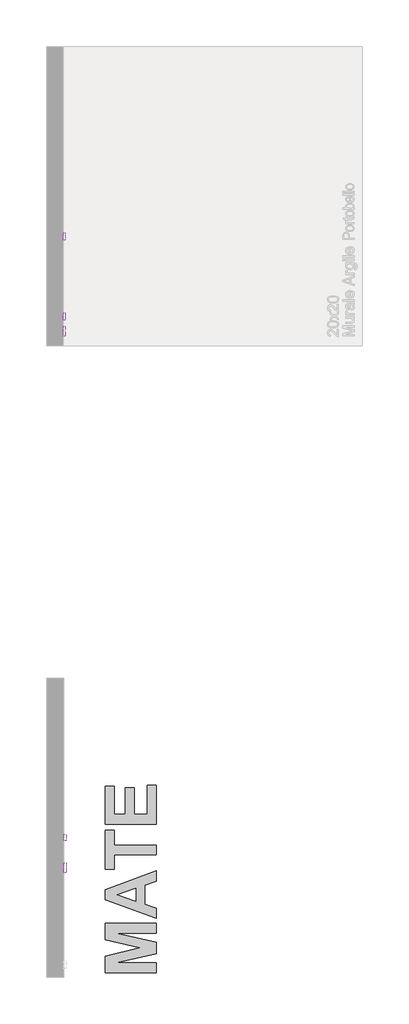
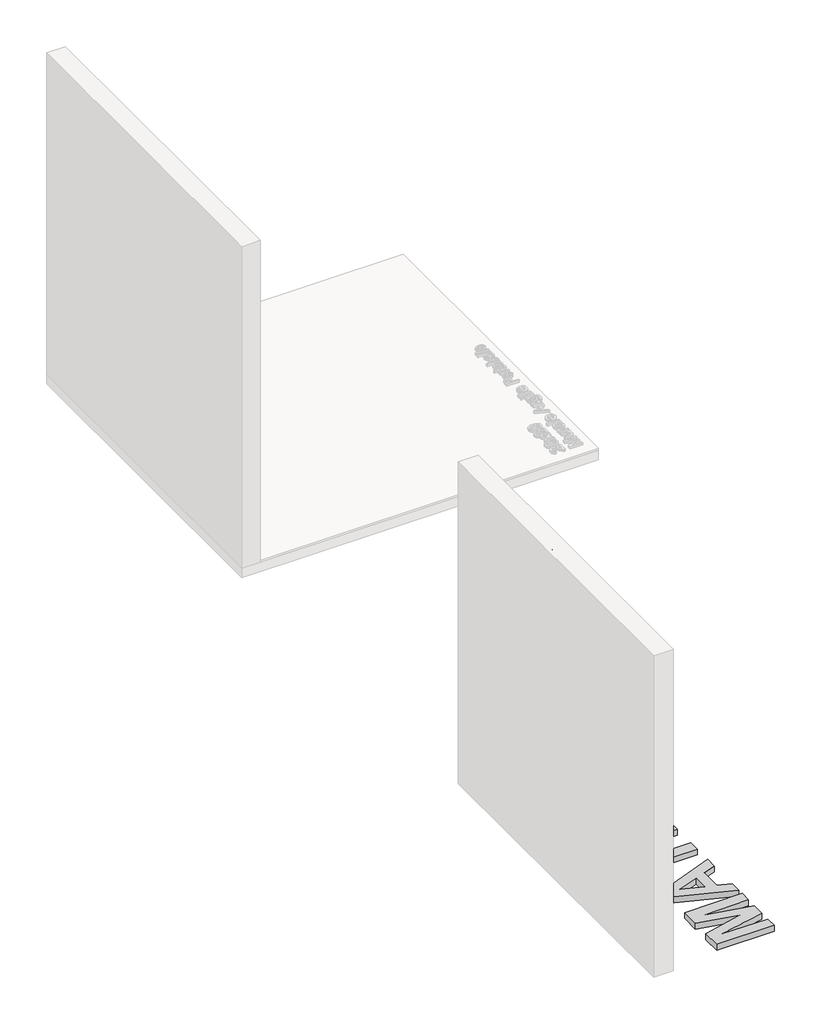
# One storey, part 6 of 21: 6 proxies.
"""IFC4 building model written with IfcOpenShell, lengths in millimetres."""

from ifc_helpers import new_model, si_unit, frame, origin, origin_with_axes, place, context, project, spatial, polyline, outline, extrude, element, save

model = new_model("IFC4")

# Units and contexts
model_context = context("Model", 3, world=origin())
ifc_project = project(units=[si_unit("LENGTHUNIT", "METRE", prefix="MILLI")], contexts=[model_context])

# Site, building, storey
site = spatial("IfcSite", under=ifc_project)
building = spatial("IfcBuilding", under=site)
storey = spatial("IfcBuildingStorey", under=building, Name="PORTOBELLO - SHOWROOM", Elevation=0.0)

# Proxies
placement = place(None, origin())
element("IfcBuildingElementProxy", 1, Name="10mm Arial", ObjectType="10mm Arial", at=placement, inside=storey, context=model_context, shape_type="SweptSolid", body=[
    extrude(outline(polyline([(4665.0222015, 2518.4745677), (4665.0222015, 2618.9308778), (4686.555561, 2618.9308778), (4707.1569527, 2548.1258565), (4711.326282, 2533.3370003), (4715.8144423, 2549.3521298), (4736.0234266, 2618.9308778), (4757.6303624, 2618.9308778), (4757.6303624, 2518.4745677), (4745.0733237, 2518.4745677), (4745.0733237, 2606.373839), (4719.8366188, 2518.4745677), (4702.8404706, 2518.4745677), (4677.5792403, 2606.373839), (4677.5792403, 2518.4745677), (4665.0222015, 2518.4745677)])), frame((15340.268651, 0.0, 0.0), z_axis=(1.0, 0.0, 0.0), x_axis=(0.0, 1.0, 0.0)), (0.0, 0.0, 1.0), 20.0),
    extrude(outline(polyline([(4825.1244458, 2518.4745677), (4825.1244458, 2531.1542338), (4815.2897338, 2520.4672618), (4802.4629149, 2516.9049378), (4790.6539029, 2519.4065354), (4782.511448, 2525.6850548), (4778.7713144, 2534.9311556), (4778.0355504, 2546.6052776), (4778.0355504, 2592.2471704), (4790.5925892, 2592.2471704), (4790.5925892, 2552.515915), (4791.3528787, 2539.7136215), (4796.3192856, 2532.1965661), (4805.675751, 2529.4619766), (4816.1603879, 2532.2578797), (4823.0888321, 2539.873037), (4825.1244458, 2553.8648156), (4825.1244458, 2592.2471704), (4837.6814846, 2592.2471704), (4837.6814846, 2518.4745677), (4825.1244458, 2518.4745677)])), frame((15340.268651, 0.0, 0.0), z_axis=(1.0, 0.0, 0.0), x_axis=(0.0, 1.0, 0.0)), (0.0, 0.0, 1.0), 20.0),
    extrude(outline(polyline([(4854.9474129, 2518.4745677), (4854.9474129, 2592.2471704), (4865.9348218, 2592.2471704), (4865.9348218, 2581.3333379), (4873.7339201, 2591.3887791), (4881.5820693, 2593.8168003), (4894.188159, 2589.9417766), (4889.9943043, 2578.6845875), (4881.1651364, 2581.2597615), (4874.0650139, 2578.7826894), (4869.5400654, 2571.9155588), (4867.5044517, 2557.24933), (4867.5044517, 2518.4745677), (4854.9474129, 2518.4745677)])), frame((15340.268651, 0.0, 0.0), z_axis=(1.0, 0.0, 0.0), x_axis=(0.0, 1.0, 0.0)), (0.0, 0.0, 1.0), 20.0),
    extrude(outline(polyline([(4949.1252037, 2527.8923467), (4936.9483096, 2519.3820099), (4923.4960913, 2516.9049378), (4913.0022574, 2518.3948599), (4905.2614071, 2522.8646261), (4900.4881382, 2529.6520489), (4898.8970486, 2538.0949407), (4901.3005443, 2548.0277546), (4907.6158519, 2555.2382417), (4916.4082316, 2559.3585201), (4927.2730131, 2561.246981), (4949.0516273, 2565.563463), (4949.1252037, 2568.3593662), (4945.6671129, 2577.6299925), (4931.785699, 2581.2597615), (4919.0815074, 2578.8440031), (4913.0237172, 2570.2723526), (4900.4666784, 2571.8419824), (4905.8990692, 2584.1047156), (4916.8374272, 2591.2906772), (4933.4043797, 2593.8168003), (4948.6224316, 2591.5849828), (4957.2186076, 2585.9809138), (4961.0691058, 2577.4583142), (4961.6822424, 2566.4709053), (4961.6822424, 2550.8481832), (4962.3199046, 2529.0327809), (4964.8215021, 2518.4745677), (4952.2644634, 2518.4745677), (4949.1252037, 2527.8923467)]), holes=[polyline([(4949.1252037, 2553.0064243), (4928.8671685, 2549.1559261), (4918.0637005, 2547.1203124), (4913.17087, 2543.8093744), (4911.4540874, 2538.9778575), (4915.194221, 2532.1843033), (4926.1693672, 2529.4619766), (4938.8735587, 2532.4663462), (4947.0650645, 2539.738147), (4949.0516273, 2549.4502317), (4949.1252037, 2553.0064243)])]), frame((15340.268651, 0.0, 0.0), z_axis=(1.0, 0.0, 0.0), x_axis=(0.0, 1.0, 0.0)), (0.0, 0.0, 1.0), 20.0),
    extrude(outline(polyline([(15360.268651, 4991.5052095), (15360.268651, 4978.9481707), (15340.268651, 4978.9481707), (15340.268651, 4991.5052095), (15360.268651, 4991.5052095)])), frame((0.0, 0.0, 2518.4745677), z_axis=(0.0, 0.0, 1.0), x_axis=(1.0, 0.0, 0.0)), (0.0, 0.0, 1.0), 100.4563101),
    extrude(outline(polyline([(5061.9913998, 2540.4493855), (5074.3031839, 2538.8797557), (5069.8671402, 2529.602998), (5062.7884774, 2522.6684224), (5053.2266112, 2518.345809), (5041.3409571, 2516.9049378), (5026.6072832, 2519.391207), (5015.2703864, 2526.8500144), (5008.0415052, 2538.7969822), (5005.6318781, 2554.7477324), (5008.0660307, 2571.2349771), (5015.3684883, 2583.5651553), (5026.5521009, 2591.253889), (5040.6297186, 2593.8168003), (5054.2689436, 2591.2600204), (5065.1674477, 2583.5896808), (5072.3135554, 2571.2840281), (5074.6955913, 2554.8213088), (5074.6220149, 2551.4367944), (5018.1889169, 2551.4367944), (5020.3624863, 2542.0374095), (5025.4116667, 2535.1273593), (5032.6987959, 2530.8783223), (5041.5862118, 2529.4619766), (5053.8979959, 2532.0862015), (5061.9913998, 2540.4493855)]), holes=[polyline([(5018.1889169, 2563.9938332), (5062.1385526, 2563.9938332), (5057.110832, 2575.3736496), (5049.7899803, 2579.7882335), (5040.5806677, 2581.2597615), (5025.1173611, 2576.5631347), (5020.2521217, 2571.0724959), (5018.1889169, 2563.9938332)])]), frame((15340.268651, 0.0, 0.0), z_axis=(1.0, 0.0, 0.0), x_axis=(0.0, 1.0, 0.0)), (0.0, 0.0, 1.0), 20.0),
    extrude(outline(polyline([(5116.3888841, 2518.4745677), (5156.4880216, 2618.9308778), (5167.1811249, 2618.9308778), (5207.2557369, 2518.4745677), (5193.9874596, 2518.4745677), (5182.5095414, 2549.8671646), (5141.1105542, 2549.8671646), (5129.632636, 2518.4745677), (5116.3888841, 2518.4745677)]), holes=[polyline([(5145.7213419, 2562.4242034), (5177.9232792, 2562.4242034), (5168.8488566, 2587.121348), (5161.8100478, 2606.373839), (5155.5560539, 2589.279589), (5145.7213419, 2562.4242034)])]), frame((15340.268651, 0.0, 0.0), z_axis=(1.0, 0.0, 0.0), x_axis=(0.0, 1.0, 0.0)), (0.0, 0.0, 1.0), 20.0),
    extrude(outline(polyline([(5219.1015372, 2518.4745677), (5219.1015372, 2592.2471704), (5230.0889461, 2592.2471704), (5230.0889461, 2581.3333379), (5237.8880444, 2591.3887791), (5245.7361936, 2593.8168003), (5258.3422833, 2589.9417766), (5254.1484286, 2578.6845875), (5245.3192607, 2581.2597615), (5238.2191382, 2578.7826894), (5233.6941897, 2571.9155588), (5231.658576, 2557.24933), (5231.658576, 2518.4745677), (5219.1015372, 2518.4745677)])), frame((15340.268651, 0.0, 0.0), z_axis=(1.0, 0.0, 0.0), x_axis=(0.0, 1.0, 0.0)), (0.0, 0.0, 1.0), 20.0),
    extrude(outline(polyline([(5263.0511729, 2512.1960483), (5275.6082116, 2510.6264184), (5279.6794391, 2504.0045425), (5291.8685958, 2501.2086394), (5304.7199402, 2504.3724245), (5310.8513068, 2513.2506433), (5311.7096981, 2527.8923467), (5302.8682675, 2520.8290124), (5292.089325, 2518.4745677), (5279.1429445, 2521.2152885), (5269.4891078, 2529.4374511), (5263.4834342, 2541.4917178), (5261.481543, 2555.728751), (5265.0745238, 2575.1897086), (5275.4733216, 2588.9607579), (5291.4761884, 2593.8168003), (5302.6781951, 2591.069948), (5311.7096981, 2582.8293914), (5311.7096981, 2592.2471704), (5324.2667369, 2592.2471704), (5324.2667369, 2528.5545343), (5320.8331716, 2504.1639581), (5309.9561273, 2492.8209299), (5291.6233412, 2488.6516006), (5279.9400221, 2490.1200629), (5270.7399066, 2494.5254498), (5264.8384662, 2501.880024), (5263.0511729, 2512.1960483)]), holes=[polyline([(5274.0385818, 2556.5871424), (5275.3782854, 2545.0693702), (5279.3973962, 2537.1507103), (5285.439858, 2532.5613824), (5292.8496145, 2531.0316064), (5300.2041887, 2532.5521853), (5306.2773073, 2537.1139221), (5310.3516004, 2544.9314145), (5311.7096981, 2556.2192604), (5310.3117465, 2567.1055017), (5306.1178918, 2574.9444539), (5299.9558684, 2579.6809346), (5292.6534108, 2581.2597615), (5285.4827775, 2579.7054601), (5279.4709726, 2575.0425558), (5275.3966795, 2567.3200996), (5274.0385818, 2556.5871424)])]), frame((15340.268651, 0.0, 0.0), z_axis=(1.0, 0.0, 0.0), x_axis=(0.0, 1.0, 0.0)), (0.0, 0.0, 1.0), 20.0),
    extrude(outline(polyline([(15360.268651, 5355.6593338), (15360.268651, 5343.102295), (15340.268651, 5343.102295), (15340.268651, 5355.6593338), (15360.268651, 5355.6593338)])), frame((0.0, 0.0, 2606.373839), z_axis=(0.0, 0.0, 1.0), x_axis=(1.0, 0.0, 0.0)), (0.0, 0.0, 1.0), 12.5570388),
    extrude(outline(polyline([(15360.268651, 5355.6593338), (15360.268651, 5343.102295), (15340.268651, 5343.102295), (15340.268651, 5355.6593338), (15360.268651, 5355.6593338)])), frame((0.0, 0.0, 2518.4745677), z_axis=(0.0, 0.0, 1.0), x_axis=(1.0, 0.0, 0.0)), (0.0, 0.0, 1.0), 73.7726028),
    extrude(outline(polyline([(15360.268651, 5387.0519307), (15360.268651, 5374.4948919), (15340.268651, 5374.4948919), (15340.268651, 5387.0519307), (15360.268651, 5387.0519307)])), frame((0.0, 0.0, 2518.4745677), z_axis=(0.0, 0.0, 1.0), x_axis=(1.0, 0.0, 0.0)), (0.0, 0.0, 1.0), 100.4563101),
    extrude(outline(polyline([(5457.538121, 2540.4493855), (5469.8499051, 2538.8797557), (5465.4138614, 2529.602998), (5458.3351986, 2522.6684224), (5448.7733325, 2518.345809), (5436.8876783, 2516.9049378), (5422.1540044, 2519.391207), (5410.8171076, 2526.8500144), (5403.5882264, 2538.7969822), (5401.1785993, 2554.7477324), (5403.6127519, 2571.2349771), (5410.9152095, 2583.5651553), (5422.0988221, 2591.253889), (5436.1764398, 2593.8168003), (5449.8156648, 2591.2600204), (5460.7141689, 2583.5896808), (5467.8602766, 2571.2840281), (5470.2423126, 2554.8213088), (5470.1687362, 2551.4367944), (5413.7356381, 2551.4367944), (5415.9092076, 2542.0374095), (5420.9583879, 2535.1273593), (5428.2455171, 2530.8783223), (5437.132933, 2529.4619766), (5449.4447171, 2532.0862015), (5457.538121, 2540.4493855)]), holes=[polyline([(5413.7356381, 2563.9938332), (5457.6852738, 2563.9938332), (5452.6575532, 2575.3736496), (5445.3367015, 2579.7882335), (5436.1273889, 2581.2597615), (5420.6640823, 2576.5631347), (5415.798843, 2571.0724959), (5413.7356381, 2563.9938332)])]), frame((15340.268651, 0.0, 0.0), z_axis=(1.0, 0.0, 0.0), x_axis=(0.0, 1.0, 0.0)), (0.0, 0.0, 1.0), 20.0),
    extrude(outline(polyline([(5570.6986227, 2557.7153138), (5570.6986227, 2570.2723526), (5611.5089987, 2570.2723526), (5611.5089987, 2532.7238636), (5591.3613281, 2520.8780634), (5570.0609606, 2516.9049378), (5555.9741459, 2518.4837647), (5543.2423631, 2523.2202454), (5532.6657558, 2530.948833), (5525.0444671, 2541.5039806), (5520.4367451, 2554.1652526), (5518.9008378, 2568.2122134), (5520.4306138, 2582.3603418), (5525.0199416, 2595.5213202), (5532.4787491, 2606.5608457), (5542.6169637, 2614.3446156), (5554.965536, 2618.9615346), (5569.0554165, 2620.5005077), (5588.700315, 2616.9320523), (5602.4713644, 2606.9992384), (5610.0619962, 2590.383235), (5598.4859761, 2587.121348), (5592.7592797, 2598.7341563), (5582.9736186, 2605.4296086), (5568.8592127, 2607.9434689), (5552.7827695, 2605.2334049), (5541.8444116, 2598.1210196), (5535.3819512, 2588.4457231), (5531.4578766, 2568.7272482), (5536.1790288, 2546.8382695), (5549.91329, 2533.7416705), (5569.0554165, 2529.4619766), (5586.2355056, 2532.6870754), (5598.9519599, 2539.5664687), (5598.9519599, 2557.7153138), (5570.6986227, 2557.7153138)])), frame((15340.268651, 0.0, 0.0), z_axis=(1.0, 0.0, 0.0), x_axis=(0.0, 1.0, 0.0)), (0.0, 0.0, 1.0), 20.0),
    extrude(outline(polyline([(5630.3445569, 2518.4745677), (5630.3445569, 2592.2471704), (5641.3319658, 2592.2471704), (5641.3319658, 2581.3333379), (5649.1310641, 2591.3887791), (5656.9792133, 2593.8168003), (5669.585303, 2589.9417766), (5665.3914483, 2578.6845875), (5656.5622804, 2581.2597615), (5649.4621579, 2578.7826894), (5644.9372093, 2571.9155588), (5642.9015956, 2557.24933), (5642.9015956, 2518.4745677), (5630.3445569, 2518.4745677)])), frame((15340.268651, 0.0, 0.0), z_axis=(1.0, 0.0, 0.0), x_axis=(0.0, 1.0, 0.0)), (0.0, 0.0, 1.0), 20.0),
    extrude(outline(polyline([(15360.268651, 5689.990491), (15360.268651, 5677.4334522), (15340.268651, 5677.4334522), (15340.268651, 5689.990491), (15360.268651, 5689.990491)])), frame((0.0, 0.0, 2606.373839), z_axis=(0.0, 0.0, 1.0), x_axis=(1.0, 0.0, 0.0)), (0.0, 0.0, 1.0), 12.5570388),
    extrude(outline(polyline([(15360.268651, 5689.990491), (15360.268651, 5677.4334522), (15340.268651, 5677.4334522), (15340.268651, 5689.990491), (15360.268651, 5689.990491)])), frame((0.0, 0.0, 2518.4745677), z_axis=(0.0, 0.0, 1.0), x_axis=(1.0, 0.0, 0.0)), (0.0, 0.0, 1.0), 73.7726028),
    extrude(outline(polyline([(5735.5097565, 2528.9469418), (5737.0793864, 2518.1066857), (5727.6861328, 2516.9049378), (5717.1647077, 2518.9896025), (5711.9162579, 2524.4587815), (5710.395679, 2538.7080774), (5710.395679, 2579.6901317), (5700.9778999, 2579.6901317), (5700.9778999, 2592.2471704), (5710.395679, 2592.2471704), (5710.395679, 2610.1752863), (5722.9527178, 2617.5574517), (5722.9527178, 2592.2471704), (5735.5097565, 2592.2471704), (5735.5097565, 2579.6901317), (5722.9527178, 2579.6901317), (5722.9527178, 2539.0759594), (5723.6149054, 2532.6012363), (5725.7608837, 2530.3081052), (5730.0405776, 2529.4619766), (5735.5097565, 2528.9469418)])), frame((15340.268651, 0.0, 0.0), z_axis=(1.0, 0.0, 0.0), x_axis=(0.0, 1.0, 0.0)), (0.0, 0.0, 1.0), 20.0),
])
element("IfcBuildingElementProxy", 2, Name="10mm Arial", ObjectType="10mm Arial", at=placement, inside=storey, context=model_context, shape_type="SweptSolid", body=[
    extrude(outline(polyline([(10360.5312135, 2516.1895903), (10360.5312135, 2616.6459005), (10382.0645729, 2616.6459005), (10402.6659647, 2545.8408792), (10406.8352939, 2531.0520229), (10411.3234543, 2547.0671525), (10431.5324385, 2616.6459005), (10453.1393744, 2616.6459005), (10453.1393744, 2516.1895903), (10440.5823356, 2516.1895903), (10440.5823356, 2604.0888617), (10415.3456308, 2516.1895903), (10398.3494826, 2516.1895903), (10373.0882522, 2604.0888617), (10373.0882522, 2516.1895903), (10360.5312135, 2516.1895903)])), frame((15333.968651, 0.0, 0.0), z_axis=(1.0, 0.0, 0.0), x_axis=(0.0, 1.0, 0.0)), (0.0, 0.0, 1.0), 20.0),
    extrude(outline(polyline([(10520.6334578, 2516.1895903), (10520.6334578, 2528.8692564), (10510.7987458, 2518.1822845), (10497.9719269, 2514.6199605), (10486.1629148, 2517.1215581), (10478.02046, 2523.4000774), (10474.2803264, 2532.6461783), (10473.5445624, 2544.3203002), (10473.5445624, 2589.9621931), (10486.1016012, 2589.9621931), (10486.1016012, 2550.2309376), (10486.8618906, 2537.4286442), (10491.8282975, 2529.9115888), (10501.184763, 2527.1769993), (10511.6693998, 2529.9729024), (10518.5978441, 2537.5880597), (10520.6334578, 2551.5798383), (10520.6334578, 2589.9621931), (10533.1904965, 2589.9621931), (10533.1904965, 2516.1895903), (10520.6334578, 2516.1895903)])), frame((15333.968651, 0.0, 0.0), z_axis=(1.0, 0.0, 0.0), x_axis=(0.0, 1.0, 0.0)), (0.0, 0.0, 1.0), 20.0),
    extrude(outline(polyline([(10550.4564248, 2516.1895903), (10550.4564248, 2589.9621931), (10561.4438338, 2589.9621931), (10561.4438338, 2579.0483606), (10569.2429321, 2589.1038018), (10577.0910813, 2591.531823), (10589.697171, 2587.6567993), (10585.5033163, 2576.3996102), (10576.6741484, 2578.9747842), (10569.5740259, 2576.4977121), (10565.0490773, 2569.6305815), (10563.0134636, 2554.9643526), (10563.0134636, 2516.1895903), (10550.4564248, 2516.1895903)])), frame((15333.968651, 0.0, 0.0), z_axis=(1.0, 0.0, 0.0), x_axis=(0.0, 1.0, 0.0)), (0.0, 0.0, 1.0), 20.0),
    extrude(outline(polyline([(10644.6342156, 2525.6073694), (10632.4573216, 2517.0970326), (10619.0051033, 2514.6199605), (10608.5112694, 2516.1098826), (10600.7704191, 2520.5796488), (10595.9971502, 2527.3670716), (10594.4060605, 2535.8099634), (10596.8095562, 2545.7427773), (10603.1248638, 2552.9532644), (10611.9172435, 2557.0735427), (10622.7820251, 2558.9620036), (10644.5606392, 2563.2784857), (10644.6342156, 2566.0743889), (10641.1761249, 2575.3450152), (10627.2947109, 2578.9747842), (10614.5905193, 2576.5590258), (10608.5327292, 2567.9873753), (10595.9756904, 2569.5570051), (10601.4080812, 2581.8197383), (10612.3464392, 2589.0056999), (10628.9133917, 2591.531823), (10644.1314436, 2589.3000055), (10652.7276195, 2583.6959365), (10656.5781177, 2575.1733369), (10657.1912544, 2564.185928), (10657.1912544, 2548.5632059), (10657.8289165, 2526.7478036), (10660.3305141, 2516.1895903), (10647.7734753, 2516.1895903), (10644.6342156, 2525.6073694)]), holes=[polyline([(10644.6342156, 2550.721447), (10624.3761804, 2546.8709487), (10613.5727125, 2544.835335), (10608.6798819, 2541.5243971), (10606.9630993, 2536.6928802), (10610.7032329, 2529.899326), (10621.6783791, 2527.1769993), (10634.3825707, 2530.1813689), (10642.5740764, 2537.4531697), (10644.5606392, 2547.1652543), (10644.6342156, 2550.721447)])]), frame((15333.968651, 0.0, 0.0), z_axis=(1.0, 0.0, 0.0), x_axis=(0.0, 1.0, 0.0)), (0.0, 0.0, 1.0), 20.0),
    extrude(outline(polyline([(15353.968651, 10687.0142215), (15353.968651, 10674.4571827), (15333.968651, 10674.4571827), (15333.968651, 10687.0142215), (15353.968651, 10687.0142215)])), frame((0.0, 0.0, 2516.1895903), z_axis=(0.0, 0.0, 1.0), x_axis=(1.0, 0.0, 0.0)), (0.0, 0.0, 1.0), 100.4563101),
    extrude(outline(polyline([(10757.5004117, 2538.1644082), (10769.8121958, 2536.5947783), (10765.3761521, 2527.3180207), (10758.2974894, 2520.3834451), (10748.7356232, 2516.0608316), (10736.8499691, 2514.6199605), (10722.1162952, 2517.1062296), (10710.7793983, 2524.5650371), (10703.5505171, 2536.5120049), (10701.1408901, 2552.4627551), (10703.5750426, 2568.9499998), (10710.8775002, 2581.280178), (10722.0611129, 2588.9689117), (10736.1387305, 2591.531823), (10749.7779555, 2588.9750431), (10760.6764596, 2581.3047035), (10767.8225674, 2568.9990508), (10770.2046033, 2552.5363315), (10770.1310269, 2549.1518171), (10713.6979288, 2549.1518171), (10715.8714983, 2539.7524321), (10720.9206787, 2532.842382), (10728.2078079, 2528.5933449), (10737.0952237, 2527.1769993), (10749.4070078, 2529.8012242), (10757.5004117, 2538.1644082)]), holes=[polyline([(10713.6979288, 2561.7088559), (10757.6475645, 2561.7088559), (10752.6198439, 2573.0886723), (10745.2989922, 2577.5032562), (10736.0896796, 2578.9747842), (10720.6263731, 2574.2781574), (10715.7611337, 2568.7875186), (10713.6979288, 2561.7088559)])]), frame((15333.968651, 0.0, 0.0), z_axis=(1.0, 0.0, 0.0), x_axis=(0.0, 1.0, 0.0)), (0.0, 0.0, 1.0), 20.0),
    extrude(outline(polyline([(10811.8978961, 2516.1895903), (10851.9970336, 2616.6459005), (10862.6901369, 2616.6459005), (10902.7647489, 2516.1895903), (10889.4964716, 2516.1895903), (10878.0185534, 2547.5821873), (10836.6195662, 2547.5821873), (10825.1416479, 2516.1895903), (10811.8978961, 2516.1895903)]), holes=[polyline([(10841.2303538, 2560.139226), (10873.4322911, 2560.139226), (10864.3578686, 2584.8363706), (10857.3190598, 2604.0888617), (10851.0650658, 2586.9946117), (10841.2303538, 2560.139226)])]), frame((15333.968651, 0.0, 0.0), z_axis=(1.0, 0.0, 0.0), x_axis=(0.0, 1.0, 0.0)), (0.0, 0.0, 1.0), 20.0),
    extrude(outline(polyline([(10914.6105491, 2516.1895903), (10914.6105491, 2589.9621931), (10925.5979581, 2589.9621931), (10925.5979581, 2579.0483606), (10933.3970564, 2589.1038018), (10941.2452056, 2591.531823), (10953.8512953, 2587.6567993), (10949.6574405, 2576.3996102), (10940.8282727, 2578.9747842), (10933.7281502, 2576.4977121), (10929.2032016, 2569.6305815), (10927.1675879, 2554.9643526), (10927.1675879, 2516.1895903), (10914.6105491, 2516.1895903)])), frame((15333.968651, 0.0, 0.0), z_axis=(1.0, 0.0, 0.0), x_axis=(0.0, 1.0, 0.0)), (0.0, 0.0, 1.0), 20.0),
    extrude(outline(polyline([(10958.5601848, 2509.911071), (10971.1172236, 2508.3414411), (10975.188451, 2501.7195652), (10987.3776078, 2498.923662), (11000.2289521, 2502.0874472), (11006.3603187, 2510.965666), (11007.2187101, 2525.6073694), (10998.3772794, 2518.5440351), (10987.598337, 2516.1895903), (10974.6519564, 2518.9303112), (10964.9981197, 2527.1524738), (10958.9924462, 2539.2067405), (10956.990555, 2553.4437737), (10960.5835358, 2572.9047313), (10970.9823335, 2586.6757806), (10986.9852003, 2591.531823), (10998.1872071, 2588.7849707), (11007.2187101, 2580.544414), (11007.2187101, 2589.9621931), (11019.7757488, 2589.9621931), (11019.7757488, 2526.269557), (11016.3421835, 2501.8789807), (11005.4651392, 2490.5359525), (10987.1323531, 2486.3666233), (10975.4490341, 2487.8350856), (10966.2489185, 2492.2404725), (10960.3474782, 2499.5950467), (10958.5601848, 2509.911071)]), holes=[polyline([(10969.5475938, 2554.302165), (10970.8872974, 2542.7843929), (10974.9064081, 2534.865733), (10980.9488699, 2530.2764051), (10988.3586264, 2528.7466291), (10995.7132007, 2530.267208), (11001.7863193, 2534.8289448), (11005.8606124, 2542.6464372), (11007.2187101, 2553.934283), (11005.8207585, 2564.8205244), (11001.6269037, 2572.6594766), (10995.4648803, 2577.3959573), (10988.1624227, 2578.9747842), (10980.9917895, 2577.4204828), (10974.9799845, 2572.7575785), (10970.9056915, 2565.0351223), (10969.5475938, 2554.302165)])]), frame((15333.968651, 0.0, 0.0), z_axis=(1.0, 0.0, 0.0), x_axis=(0.0, 1.0, 0.0)), (0.0, 0.0, 1.0), 20.0),
    extrude(outline(polyline([(15353.968651, 11051.1683457), (15353.968651, 11038.611307), (15333.968651, 11038.611307), (15333.968651, 11051.1683457), (15353.968651, 11051.1683457)])), frame((0.0, 0.0, 2604.0888617), z_axis=(0.0, 0.0, 1.0), x_axis=(1.0, 0.0, 0.0)), (0.0, 0.0, 1.0), 12.5570388),
    extrude(outline(polyline([(15353.968651, 11051.1683457), (15353.968651, 11038.611307), (15333.968651, 11038.611307), (15333.968651, 11051.1683457), (15353.968651, 11051.1683457)])), frame((0.0, 0.0, 2516.1895903), z_axis=(0.0, 0.0, 1.0), x_axis=(1.0, 0.0, 0.0)), (0.0, 0.0, 1.0), 73.7726028),
    extrude(outline(polyline([(15353.968651, 11082.5609427), (15353.968651, 11070.0039039), (15333.968651, 11070.0039039), (15333.968651, 11082.5609427), (15353.968651, 11082.5609427)])), frame((0.0, 0.0, 2516.1895903), z_axis=(0.0, 0.0, 1.0), x_axis=(1.0, 0.0, 0.0)), (0.0, 0.0, 1.0), 100.4563101),
    extrude(outline(polyline([(11153.0471329, 2538.1644082), (11165.3589171, 2536.5947783), (11160.9228733, 2527.3180207), (11153.8442106, 2520.3834451), (11144.2823444, 2516.0608316), (11132.3966903, 2514.6199605), (11117.6630164, 2517.1062296), (11106.3261196, 2524.5650371), (11099.0972384, 2536.5120049), (11096.6876113, 2552.4627551), (11099.1217638, 2568.9499998), (11106.4242214, 2581.280178), (11117.6078341, 2588.9689117), (11131.6854518, 2591.531823), (11145.3246767, 2588.9750431), (11156.2231808, 2581.3047035), (11163.3692886, 2568.9990508), (11165.7513245, 2552.5363315), (11165.6777481, 2549.1518171), (11109.2446501, 2549.1518171), (11111.4182195, 2539.7524321), (11116.4673999, 2532.842382), (11123.7545291, 2528.5933449), (11132.6419449, 2527.1769993), (11144.9537291, 2529.8012242), (11153.0471329, 2538.1644082)]), holes=[polyline([(11109.2446501, 2561.7088559), (11153.1942857, 2561.7088559), (11148.1665651, 2573.0886723), (11140.8457134, 2577.5032562), (11131.6364008, 2578.9747842), (11116.1730943, 2574.2781574), (11111.3078549, 2568.7875186), (11109.2446501, 2561.7088559)])]), frame((15333.968651, 0.0, 0.0), z_axis=(1.0, 0.0, 0.0), x_axis=(0.0, 1.0, 0.0)), (0.0, 0.0, 1.0), 20.0),
])
element("IfcBuildingElementProxy", 3, Name="10mm Arial", ObjectType="10mm Arial", at=placement, inside=storey, context=model_context, shape_type="SweptSolid", body=[
    extrude(outline(polyline([(10420.1771476, 2393.7466291), (10420.1771476, 2381.1895903), (10354.2526941, 2381.1895903), (10355.6015947, 2389.84708), (10363.2412775, 2403.1766709), (10378.9743642, 2417.7325352), (10400.6426137, 2438.652758), (10406.050479, 2452.8775285), (10400.9369193, 2464.3922349), (10387.5828028, 2469.0888617), (10373.6646007, 2464.5025995), (10368.3793627, 2451.8229334), (10355.8223239, 2453.3925633), (10358.8665474, 2465.5388005), (10365.4485695, 2474.4108879), (10375.2250335, 2479.8371473), (10387.852583, 2481.6459005), (10400.572103, 2479.6348123), (10410.3301729, 2473.6015475), (10416.5381816, 2464.5884386), (10418.6075178, 2453.6378179), (10416.3757003, 2441.730704), (10408.9567468, 2429.4189199), (10390.9673172, 2412.2143053), (10376.5218175, 2400.1355131), (10370.8564348, 2393.7466291), (10420.1771476, 2393.7466291)])), frame((15333.968651, 0.0, 0.0), z_axis=(1.0, 0.0, 0.0), x_axis=(0.0, 1.0, 0.0)), (0.0, 0.0, 1.0), 20.0),
    extrude(outline(polyline([(10432.7341864, 2430.608405), (10436.4252691, 2459.5116671), (10447.3881525, 2476.1767215), (10465.6964132, 2481.6459005), (10480.362642, 2478.4085389), (10490.4916596, 2469.076599), (10496.3777716, 2454.2141664), (10498.6586399, 2430.608405), (10495.0043454, 2401.8277703), (10484.0782502, 2385.1259277), (10475.8468905, 2380.9964523), (10465.6964132, 2379.6199605), (10452.6488651, 2382.0111935), (10442.7405767, 2389.1848924), (10435.235784, 2406.1749092), (10432.7341864, 2430.608405)]), holes=[polyline([(10445.2912252, 2430.6329305), (10446.7627531, 2410.880733), (10451.1773371, 2399.4488), (10457.7501621, 2393.9949495), (10465.6964132, 2392.1769993), (10473.6426643, 2394.0010808), (10480.2154892, 2399.4733255), (10484.6300732, 2410.9113899), (10486.1016012, 2430.6329305), (10484.6791241, 2449.9406039), (10480.411693, 2461.4614417), (10473.8511307, 2467.1820067), (10465.5492604, 2469.0888617), (10457.6888484, 2467.4088673), (10451.3735408, 2462.3688839), (10446.8118041, 2450.1306762), (10445.2912252, 2430.6329305)])]), frame((15333.968651, 0.0, 0.0), z_axis=(1.0, 0.0, 0.0), x_axis=(0.0, 1.0, 0.0)), (0.0, 0.0, 1.0), 20.0),
    extrude(outline(polyline([(10504.9371593, 2381.1895903), (10531.7680195, 2418.2966209), (10506.5067892, 2454.9621931), (10521.5654255, 2454.9621931), (10533.7545823, 2437.2793319), (10539.4690159, 2428.9651988), (10544.4231601, 2435.7832784), (10558.3045741, 2454.9621931), (10573.4122613, 2454.9621931), (10546.8757068, 2418.2720955), (10572.4312427, 2381.1895903), (10557.3480809, 2381.1895903), (10541.946088, 2403.5077647), (10539.1501849, 2407.6035176), (10520.0448466, 2381.1895903), (10504.9371593, 2381.1895903)])), frame((15333.968651, 0.0, 0.0), z_axis=(1.0, 0.0, 0.0), x_axis=(0.0, 1.0, 0.0)), (0.0, 0.0, 1.0), 20.0),
    extrude(outline(polyline([(10644.6342156, 2393.7466291), (10644.6342156, 2381.1895903), (10578.7097621, 2381.1895903), (10580.0586627, 2389.84708), (10587.6983455, 2403.1766709), (10603.4314322, 2417.7325352), (10625.0996817, 2438.652758), (10630.507547, 2452.8775285), (10625.3939873, 2464.3922349), (10612.0398708, 2469.0888617), (10598.1216687, 2464.5025995), (10592.8364307, 2451.8229334), (10580.2793919, 2453.3925633), (10583.3236154, 2465.5388005), (10589.9056375, 2474.4108879), (10599.6821015, 2479.8371473), (10612.309651, 2481.6459005), (10625.029171, 2479.6348123), (10634.7872409, 2473.6015475), (10640.9952495, 2464.5884386), (10643.0645858, 2453.6378179), (10640.8327683, 2441.730704), (10633.4138148, 2429.4189199), (10615.4243852, 2412.2143053), (10600.9788855, 2400.1355131), (10595.3135028, 2393.7466291), (10644.6342156, 2393.7466291)])), frame((15333.968651, 0.0, 0.0), z_axis=(1.0, 0.0, 0.0), x_axis=(0.0, 1.0, 0.0)), (0.0, 0.0, 1.0), 20.0),
    extrude(outline(polyline([(10657.1912544, 2430.608405), (10660.8823371, 2459.5116671), (10671.8452205, 2476.1767215), (10690.1534811, 2481.6459005), (10704.81971, 2478.4085389), (10714.9487276, 2469.076599), (10720.8348395, 2454.2141664), (10723.1157079, 2430.608405), (10719.4614134, 2401.8277703), (10708.5353182, 2385.1259277), (10700.3039585, 2380.9964523), (10690.1534811, 2379.6199605), (10677.1059331, 2382.0111935), (10667.1976446, 2389.1848924), (10659.6928519, 2406.1749092), (10657.1912544, 2430.608405)]), holes=[polyline([(10669.7482931, 2430.6329305), (10671.2198211, 2410.880733), (10675.6344051, 2399.4488), (10682.2072301, 2393.9949495), (10690.1534811, 2392.1769993), (10698.0997322, 2394.0010808), (10704.6725572, 2399.4733255), (10709.0871412, 2410.9113899), (10710.5586691, 2430.6329305), (10709.1361921, 2449.9406039), (10704.868761, 2461.4614417), (10698.3081987, 2467.1820067), (10690.0063284, 2469.0888617), (10682.1459164, 2467.4088673), (10675.8306088, 2462.3688839), (10671.2688721, 2450.1306762), (10669.7482931, 2430.6329305)])]), frame((15333.968651, 0.0, 0.0), z_axis=(1.0, 0.0, 0.0), x_axis=(0.0, 1.0, 0.0)), (0.0, 0.0, 1.0), 20.0),
])
element("IfcBuildingElementProxy", 4, Name="10mm Arial Narrow", ObjectType="10mm Arial Narrow", at=placement, inside=storey, context=model_context, shape_type="SweptSolid", body=[
    extrude(outline(polyline([(5806.9277964, 2518.4745677), (5806.9277964, 2615.7916181), (5837.1676964, 2615.7916181), (5852.9130458, 2613.9767336), (5863.9985566, 2604.8164719), (5868.1433604, 2588.3721467), (5866.4173807, 2576.7041561), (5861.2394416, 2567.402873), (5851.8247282, 2561.314426), (5837.3884256, 2559.2849437), (5816.3455754, 2559.2849437), (5816.3455754, 2518.4745677), (5806.9277964, 2518.4745677)]), holes=[polyline([(5816.3455754, 2570.2723526), (5838.5411225, 2570.2723526), (5853.869539, 2574.6501483), (5858.7255813, 2587.857112), (5856.3343483, 2597.6795612), (5850.558601, 2603.2836303), (5838.3203933, 2604.8042092), (5816.3455754, 2604.8042092), (5816.3455754, 2570.2723526)])]), frame((15340.268651, 0.0, 0.0), z_axis=(1.0, 0.0, 0.0), x_axis=(0.0, 1.0, 0.0)), (0.0, 0.0, 1.0), 20.0),
    extrude(outline(polyline([(5875.9915096, 2553.7912392), (5877.8799705, 2569.8216971), (5883.5453532, 2581.3701261), (5892.104741, 2588.350687), (5902.675217, 2590.6775406), (5913.1230656, 2588.350687), (5921.7069789, 2581.3701261), (5927.445938, 2570.0056381), (5929.3589244, 2554.5270032), (5927.4796605, 2537.9447223), (5921.8418689, 2526.2123523), (5913.2916782, 2519.2317914), (5902.675217, 2516.9049378), (5892.1813831, 2519.2379228), (5883.6066669, 2526.2368778), (5877.8952989, 2537.7914381), (5875.9915096, 2553.7912392)]), holes=[polyline([(5885.4092887, 2553.8157647), (5886.6692845, 2541.6879216), (5890.449272, 2533.1162711), (5896.093195, 2528.0211054), (5902.9449971, 2526.3227169), (5909.4381143, 2528.0364339), (5914.9379502, 2533.1775847), (5918.6903465, 2541.7645636), (5919.9411453, 2553.8157647), (5918.6811495, 2565.9068196), (5914.901162, 2574.4662073), (5909.257239, 2579.561373), (5902.4054369, 2581.2597615), (5895.8663344, 2579.5521759), (5890.3756956, 2574.4294191), (5886.6508904, 2565.8608343), (5885.4092887, 2553.8157647)])]), frame((15340.268651, 0.0, 0.0), z_axis=(1.0, 0.0, 0.0), x_axis=(0.0, 1.0, 0.0)), (0.0, 0.0, 1.0), 20.0),
    extrude(outline(polyline([(5998.4226376, 2526.3227169), (5999.9922674, 2516.9049378), (5992.8798822, 2516.9049378), (5984.8845802, 2518.9528143), (5980.7152509, 2524.5568833), (5979.5870794, 2538.7080774), (5979.5870794, 2579.6901317), (5971.7389302, 2579.6901317), (5971.7389302, 2582.8293914), (5970.1693004, 2578.1205018), (5962.8607114, 2579.6901317), (5956.9868622, 2577.4460515), (5953.2467286, 2571.1797948), (5951.3337422, 2556.2928368), (5951.3337422, 2518.4745677), (5941.9159631, 2518.4745677), (5941.9159631, 2589.1079107), (5951.3337422, 2589.1079107), (5951.3337422, 2579.7391826), (5957.3670069, 2588.5192995), (5963.5474244, 2590.6775406), (5971.7389302, 2589.1079107), (5979.5870794, 2589.1079107), (5979.5870794, 2604.8042092), (5989.0048585, 2612.6523584), (5989.0048585, 2589.1079107), (5998.4226376, 2589.1079107), (5998.4226376, 2579.6901317), (5989.0048585, 2579.6901317), (5989.0048585, 2536.5498364), (5989.8387244, 2528.8243145), (5994.3023592, 2526.3227169), (5998.4226376, 2526.3227169)])), frame((15340.268651, 0.0, 0.0), z_axis=(1.0, 0.0, 0.0), x_axis=(0.0, 1.0, 0.0)), (0.0, 0.0, 1.0), 20.0),
    extrude(outline(polyline([(6004.701157, 2553.7912392), (6006.5896179, 2569.8216971), (6012.2550006, 2581.3701261), (6020.8143884, 2588.350687), (6031.3848644, 2590.6775406), (6041.832713, 2588.350687), (6050.4166262, 2581.3701261), (6056.1555854, 2570.0056381), (6058.0685717, 2554.5270032), (6056.1893079, 2537.9447223), (6050.5515163, 2526.2123523), (6042.0013256, 2519.2317914), (6031.3848644, 2516.9049378), (6020.8910304, 2519.2379228), (6012.3163143, 2526.2368778), (6006.6049463, 2537.7914381), (6004.701157, 2553.7912392)]), holes=[polyline([(6014.1189361, 2553.8157647), (6015.3789319, 2541.6879216), (6019.1589194, 2533.1162711), (6024.8028423, 2528.0211054), (6031.6546445, 2526.3227169), (6038.1477617, 2528.0364339), (6043.6475975, 2533.1775847), (6047.3999939, 2541.7645636), (6048.6507927, 2553.8157647), (6047.3907968, 2565.9068196), (6043.6108093, 2574.4662073), (6037.9668864, 2579.561373), (6031.1150842, 2581.2597615), (6024.5759818, 2579.5521759), (6019.085343, 2574.4294191), (6015.3605378, 2565.8608343), (6014.1189361, 2553.8157647)])]), frame((15340.268651, 0.0, 0.0), z_axis=(1.0, 0.0, 0.0), x_axis=(0.0, 1.0, 0.0)), (0.0, 0.0, 1.0), 20.0),
    extrude(outline(polyline([(6080.0433896, 2518.4745677), (6070.6256105, 2518.4745677), (6070.6256105, 2615.7916181), (6080.0433896, 2615.7916181), (6080.0433896, 2581.5785926), (6087.192563, 2588.4211977), (6096.0830446, 2590.6775406), (6108.5297187, 2586.6185759), (6117.4937767, 2574.3190545), (6120.8537656, 2554.3307995), (6118.9867645, 2538.4321659), (6113.3857611, 2526.641548), (6105.2954229, 2519.3390904), (6095.9604172, 2516.9049378), (6086.9350456, 2519.4310609), (6080.0433896, 2526.9358536), (6080.0433896, 2518.4745677)]), holes=[polyline([(6080.0433896, 2554.3307995), (6082.0544778, 2537.6657451), (6087.744386, 2529.2289847), (6095.9113663, 2526.3227169), (6101.6533911, 2528.0517623), (6106.7148342, 2533.2388984), (6111.4359865, 2553.938392), (6106.8865125, 2574.6501483), (6101.818938, 2579.6073582), (6095.7151626, 2581.2597615), (6089.9394153, 2579.5307161), (6084.8258555, 2574.34358), (6080.0433896, 2554.3307995)])]), frame((15340.268651, 0.0, 0.0), z_axis=(1.0, 0.0, 0.0), x_axis=(0.0, 1.0, 0.0)), (0.0, 0.0, 1.0), 20.0),
    extrude(outline(polyline([(6171.0819207, 2540.4493855), (6180.4996997, 2538.8797557), (6171.3026499, 2522.4476932), (6154.8215365, 2516.9049378), (6143.6195297, 2519.2379228), (6134.7842305, 2526.2368778), (6129.0452713, 2537.6442853), (6127.132285, 2553.202628), (6129.0544684, 2569.3066623), (6134.8210187, 2581.0758205), (6143.5306249, 2588.2771106), (6154.2819762, 2590.6775406), (6164.6041319, 2588.359884), (6173.0562207, 2581.4069143), (6178.6940123, 2570.0638861), (6180.5732761, 2554.5760541), (6180.4996997, 2551.4367944), (6136.550064, 2551.4367944), (6142.3503368, 2532.6502872), (6148.0800989, 2527.9046095), (6154.9441638, 2526.3227169), (6164.7788758, 2529.854384), (6171.0819207, 2540.4493855)]), holes=[polyline([(6137.1877262, 2560.8545735), (6171.0819207, 2560.8545735), (6166.9616423, 2574.6378856), (6161.3330478, 2579.6042925), (6154.3555526, 2581.2597615), (6142.5588033, 2575.7415316), (6137.1877262, 2560.8545735)])]), frame((15340.268651, 0.0, 0.0), z_axis=(1.0, 0.0, 0.0), x_axis=(0.0, 1.0, 0.0)), (0.0, 0.0, 1.0), 20.0),
    extrude(outline(polyline([(15360.268651, 6202.4745176), (15360.268651, 6193.0567385), (15340.268651, 6193.0567385), (15340.268651, 6202.4745176), (15360.268651, 6202.4745176)])), frame((0.0, 0.0, 2518.4745677), z_axis=(0.0, 0.0, 1.0), x_axis=(1.0, 0.0, 0.0)), (0.0, 0.0, 1.0), 97.3170505),
    extrude(outline(polyline([(15360.268651, 6227.5885951), (15360.268651, 6218.170816), (15340.268651, 6218.170816), (15340.268651, 6227.5885951), (15360.268651, 6227.5885951)])), frame((0.0, 0.0, 2518.4745677), z_axis=(0.0, 0.0, 1.0), x_axis=(1.0, 0.0, 0.0)), (0.0, 0.0, 1.0), 97.3170505),
    extrude(outline(polyline([(6238.576004, 2553.7912392), (6240.464465, 2569.8216971), (6246.1298477, 2581.3701261), (6254.6892354, 2588.350687), (6265.2597114, 2590.6775406), (6275.7075601, 2588.350687), (6284.2914733, 2581.3701261), (6290.0304324, 2570.0056381), (6291.9434188, 2554.5270032), (6290.064155, 2537.9447223), (6284.4263634, 2526.2123523), (6275.8761727, 2519.2317914), (6265.2597114, 2516.9049378), (6254.7658775, 2519.2379228), (6246.1911613, 2526.2368778), (6240.4797934, 2537.7914381), (6238.576004, 2553.7912392)]), holes=[polyline([(6247.9937831, 2553.8157647), (6249.253779, 2541.6879216), (6253.0337665, 2533.1162711), (6258.6776894, 2528.0211054), (6265.5294916, 2526.3227169), (6272.0226088, 2528.0364339), (6277.5224446, 2533.1775847), (6281.274841, 2541.7645636), (6282.5256397, 2553.8157647), (6281.2656439, 2565.9068196), (6277.4856564, 2574.4662073), (6271.8417335, 2579.561373), (6264.9899313, 2581.2597615), (6258.4508288, 2579.5521759), (6252.9601901, 2574.4294191), (6249.2353849, 2565.8608343), (6247.9937831, 2553.8157647)])]), frame((15340.268651, 0.0, 0.0), z_axis=(1.0, 0.0, 0.0), x_axis=(0.0, 1.0, 0.0)), (0.0, 0.0, 1.0), 20.0),
])
element("IfcBuildingElementProxy", 5, Name="10mm Arial Narrow", ObjectType="10mm Arial Narrow", at=placement, inside=storey, context=model_context, shape_type="SweptSolid", body=[
    extrude(outline(polyline([(11229.317037, 2516.1895903), (11229.317037, 2616.9081941), (11260.6139217, 2616.9081941), (11276.9096232, 2615.0298734), (11288.3826093, 2605.5494302), (11292.6722878, 2588.5303214), (11290.8859794, 2576.4544958), (11285.5270542, 2566.8281021), (11275.7832654, 2560.5268436), (11260.8423661, 2558.4264242), (11239.0639987, 2558.4264242), (11239.0639987, 2516.1895903), (11229.317037, 2516.1895903)]), holes=[polyline([(11239.0639987, 2569.7978794), (11262.0353536, 2569.7978794), (11277.899549, 2574.3286936), (11282.9253261, 2587.9972844), (11280.4505116, 2598.1630608), (11274.4728828, 2603.9630106), (11261.8069092, 2605.5367388), (11239.0639987, 2605.5367388), (11239.0639987, 2569.7978794)])]), frame((15333.968651, 0.0, 0.0), z_axis=(1.0, 0.0, 0.0), x_axis=(0.0, 1.0, 0.0)), (0.0, 0.0, 1.0), 20.0),
    extrude(outline(polyline([(11300.7947558, 2552.7406965), (11302.7492247, 2569.3314721), (11308.6126313, 2581.2835569), (11317.471198, 2588.5081115), (11328.4111472, 2590.9162964), (11339.2241828, 2588.5081115), (11348.1081322, 2581.2835569), (11354.0476869, 2569.5218424), (11356.0275385, 2553.5021779), (11354.0825882, 2536.3402913), (11348.2477371, 2524.1978362), (11339.3986889, 2516.9732816), (11328.4111472, 2514.5650967), (11317.550519, 2516.9796273), (11308.6760881, 2524.2232189), (11302.7650889, 2536.1816494), (11300.7947558, 2552.7406965)]), holes=[polyline([(11310.5417175, 2552.7660793), (11311.8457543, 2540.2143279), (11315.7578649, 2531.3430698), (11321.5990617, 2526.0698112), (11328.690357, 2524.3120584), (11335.4104302, 2526.0856754), (11341.1025035, 2531.4065266), (11344.9860585, 2540.2936488), (11346.2805769, 2552.7660793), (11344.97654, 2565.2797566), (11341.0644294, 2574.1383233), (11335.2232327, 2579.4115818), (11328.1319373, 2581.1693347), (11321.3642716, 2579.4020633), (11315.6817168, 2574.1002492), (11311.8267173, 2565.232164), (11310.5417175, 2552.7660793)])]), frame((15333.968651, 0.0, 0.0), z_axis=(1.0, 0.0, 0.0), x_axis=(0.0, 1.0, 0.0)), (0.0, 0.0, 1.0), 20.0),
    extrude(outline(polyline([(11427.5052573, 2524.3120584), (11429.1297509, 2514.5650967), (11421.7687643, 2514.5650967), (11413.4939999, 2516.6845532), (11409.1789388, 2522.4845031), (11408.011334, 2537.1303283), (11408.011334, 2579.5448411), (11399.888866, 2579.5448411), (11399.888866, 2582.7938283), (11398.2643724, 2577.9203475), (11390.700324, 2579.5448411), (11384.6211643, 2577.2223229), (11380.7503006, 2570.7370398), (11378.770449, 2555.3297332), (11378.770449, 2516.1895903), (11369.0234874, 2516.1895903), (11369.0234874, 2589.2918027), (11378.770449, 2589.2918027), (11378.770449, 2579.5956065), (11385.0145964, 2588.6826176), (11391.4110399, 2590.9162964), (11399.888866, 2589.2918027), (11408.011334, 2589.2918027), (11408.011334, 2605.5367388), (11417.7582957, 2613.6592069), (11417.7582957, 2589.2918027), (11427.5052573, 2589.2918027), (11427.5052573, 2579.5448411), (11417.7582957, 2579.5448411), (11417.7582957, 2534.8966496), (11418.6213079, 2526.9010951), (11423.2409616, 2524.3120584), (11427.5052573, 2524.3120584)])), frame((15333.968651, 0.0, 0.0), z_axis=(1.0, 0.0, 0.0), x_axis=(0.0, 1.0, 0.0)), (0.0, 0.0, 1.0), 20.0),
    extrude(outline(polyline([(11434.0032318, 2552.7406965), (11435.9577006, 2569.3314721), (11441.8211072, 2581.2835569), (11450.679674, 2588.5081115), (11461.6196231, 2590.9162964), (11472.4326587, 2588.5081115), (11481.3166081, 2581.2835569), (11487.2561629, 2569.5218424), (11489.2360145, 2553.5021779), (11487.2910641, 2536.3402913), (11481.456213, 2524.1978362), (11472.6071648, 2516.9732816), (11461.6196231, 2514.5650967), (11450.7589949, 2516.9796273), (11441.884564, 2524.2232189), (11435.9735648, 2536.1816494), (11434.0032318, 2552.7406965)]), holes=[polyline([(11443.7501934, 2552.7660793), (11445.0542303, 2540.2143279), (11448.9663409, 2531.3430698), (11454.8075376, 2526.0698112), (11461.8988329, 2524.3120584), (11468.6189061, 2526.0856754), (11474.3109794, 2531.4065266), (11478.1945345, 2540.2936488), (11479.4890528, 2552.7660793), (11478.1850159, 2565.2797566), (11474.2729054, 2574.1383233), (11468.4317086, 2579.4115818), (11461.3404133, 2581.1693347), (11454.5727475, 2579.4020633), (11448.8901927, 2574.1002492), (11445.0351932, 2565.232164), (11443.7501934, 2552.7660793)])]), frame((15333.968651, 0.0, 0.0), z_axis=(1.0, 0.0, 0.0), x_axis=(0.0, 1.0, 0.0)), (0.0, 0.0, 1.0), 20.0),
    extrude(outline(polyline([(11511.978925, 2516.1895903), (11502.2319633, 2516.1895903), (11502.2319633, 2616.9081941), (11511.978925, 2616.9081941), (11511.978925, 2581.49931), (11519.3779857, 2588.5810868), (11528.579219, 2590.9162964), (11541.4609457, 2586.7154574), (11550.7383272, 2573.986027), (11554.2157588, 2553.2991162), (11552.2834998, 2536.8447728), (11546.4867228, 2524.6420337), (11538.1136005, 2517.084331), (11528.4523055, 2514.5650967), (11519.1114672, 2517.1795161), (11511.978925, 2524.9466262), (11511.978925, 2516.1895903)]), holes=[polyline([(11511.978925, 2553.2991162), (11514.0603074, 2536.051563), (11519.9490967, 2527.3199098), (11528.4015401, 2524.3120584), (11534.3442677, 2526.1015396), (11539.582625, 2531.4699834), (11544.4687972, 2552.8929928), (11539.760304, 2574.3286936), (11534.515601, 2579.4591744), (11528.1984784, 2581.1693347), (11522.2208495, 2579.3798535), (11516.9285539, 2574.0114097), (11511.978925, 2553.2991162)])]), frame((15333.968651, 0.0, 0.0), z_axis=(1.0, 0.0, 0.0), x_axis=(0.0, 1.0, 0.0)), (0.0, 0.0, 1.0), 20.0),
    extrude(outline(polyline([(11606.1995543, 2538.9325009), (11615.946516, 2537.3080073), (11612.2469856, 2527.4214407), (11606.4279987, 2520.3015898), (11598.7243454, 2515.99922), (11589.3708158, 2514.5650967), (11577.7772618, 2516.9796273), (11568.6331396, 2524.2232189), (11562.6935848, 2536.0293531), (11560.7137332, 2552.1315114), (11562.7031034, 2568.7984351), (11568.6712137, 2580.9789644), (11577.6852495, 2588.4319634), (11588.8123961, 2590.9162964), (11599.4953453, 2588.51763), (11608.2428627, 2581.321631), (11614.0777137, 2569.5821264), (11616.0226641, 2553.5529433), (11615.946516, 2550.3039561), (11570.4606949, 2550.3039561), (11576.4637064, 2530.8607982), (11582.3937427, 2525.9492434), (11589.4977294, 2524.3120584), (11599.6761971, 2527.967169), (11606.1995543, 2538.9325009)]), holes=[polyline([(11571.1206454, 2560.0509178), (11606.1995543, 2560.0509178), (11601.9352586, 2574.3160023), (11596.109926, 2579.4560016), (11588.8885443, 2581.1693347), (11576.6794595, 2575.4582244), (11571.1206454, 2560.0509178)])]), frame((15333.968651, 0.0, 0.0), z_axis=(1.0, 0.0, 0.0), x_axis=(0.0, 1.0, 0.0)), (0.0, 0.0, 1.0), 20.0),
    extrude(outline(polyline([(15353.968651, 11638.6894265), (15353.968651, 11628.9424648), (15333.968651, 11628.9424648), (15333.968651, 11638.6894265), (15353.968651, 11638.6894265)])), frame((0.0, 0.0, 2516.1895903), z_axis=(0.0, 0.0, 1.0), x_axis=(1.0, 0.0, 0.0)), (0.0, 0.0, 1.0), 100.7186038),
    extrude(outline(polyline([(15353.968651, 11664.6813242), (15353.968651, 11654.9343626), (15333.968651, 11654.9343626), (15333.968651, 11664.6813242), (15353.968651, 11664.6813242)])), frame((0.0, 0.0, 2516.1895903), z_axis=(0.0, 0.0, 1.0), x_axis=(1.0, 0.0, 0.0)), (0.0, 0.0, 1.0), 100.7186038),
    extrude(outline(polyline([(11676.0527795, 2552.7406965), (11678.0072484, 2569.3314721), (11683.870655, 2581.2835569), (11692.7292217, 2588.5081115), (11703.6691708, 2590.9162964), (11714.4822064, 2588.5081115), (11723.3661558, 2581.2835569), (11729.3057106, 2569.5218424), (11731.2855622, 2553.5021779), (11729.3406118, 2536.3402913), (11723.5057608, 2524.1978362), (11714.6567126, 2516.9732816), (11703.6691708, 2514.5650967), (11692.8085427, 2516.9796273), (11683.9341118, 2524.2232189), (11678.0231125, 2536.1816494), (11676.0527795, 2552.7406965)]), holes=[polyline([(11685.7997411, 2552.7660793), (11687.103778, 2540.2143279), (11691.0158886, 2531.3430698), (11696.8570853, 2526.0698112), (11703.9483807, 2524.3120584), (11710.6684538, 2526.0856754), (11716.3605272, 2531.4065266), (11720.2440822, 2540.2936488), (11721.5386005, 2552.7660793), (11720.2345637, 2565.2797566), (11716.3224531, 2574.1383233), (11710.4812563, 2579.4115818), (11703.389961, 2581.1693347), (11696.6222952, 2579.4020633), (11690.9397404, 2574.1002492), (11687.084741, 2565.232164), (11685.7997411, 2552.7660793)])]), frame((15333.968651, 0.0, 0.0), z_axis=(1.0, 0.0, 0.0), x_axis=(0.0, 1.0, 0.0)), (0.0, 0.0, 1.0), 20.0),
])
element("IfcBuildingElementProxy", 6, Name="450mm Arial", ObjectType="450mm Arial", at=placement, inside=storey, context=model_context, shape_type="SweptSolid", body=[
    extrude(outline(polyline([(16172.7729349, 4619.1171638), (15713.6562049, 4619.1171638), (15713.6562049, 4768.7400267), (16026.7938556, 4841.3879617), (15713.6562049, 4913.8081602), (15713.6562049, 5063.6587595), (16172.7729349, 5063.6587595), (16172.7729349, 4976.2079538), (15811.355152, 4972.5641702), (16172.7729349, 4892.6286682), (16172.7729349, 4790.3749917), (15811.355152, 4710.2117531), (16172.7729349, 4706.5679695), (16172.7729349, 4619.1171638)])), origin_with_axes(), (0.0, 0.0, 1.0), 50.0),
    extrude(outline(polyline([(16172.7729349, 5537.3506238), (16172.7729349, 5445.4589569), (16070.7469949, 5409.4765941), (16070.7469949, 5236.169138), (16172.7729349, 5200.6422482), (16172.7729349, 5107.3841624), (15713.6562049, 5274.7704702), (15713.6562049, 5368.1424242), (16172.7729349, 5537.3506238)]), holes=[polyline([(15990.5837564, 5381.4650079), (15822.9697121, 5322.3673931), (15990.5837564, 5264.0668559), (15990.5837564, 5381.4650079)])]), origin_with_axes(), (0.0, 0.0, 1.0), 50.0),
    extrude(outline(polyline([(16172.7729349, 5683.1019666), (15793.8194435, 5683.1019666), (15793.8194435, 5551.9257581), (15713.6562049, 5551.9257581), (15713.6562049, 5901.7289809), (15793.8194435, 5901.7289809), (15793.8194435, 5770.5527724), (16172.7729349, 5770.5527724), (16172.7729349, 5683.1019666)])), origin_with_axes(), (0.0, 0.0, 1.0), 50.0),
    extrude(outline(polyline([(16172.7729349, 5960.0295181), (15713.6562049, 5960.0295181), (15713.6562049, 6302.5451738), (15793.8194435, 6302.5451738), (15793.8194435, 6047.4803238), (15895.8453835, 6047.4803238), (15895.8453835, 6287.9700395), (15976.0086221, 6287.9700395), (15976.0086221, 6047.4803238), (16092.6096964, 6047.4803238), (16092.6096964, 6309.8327409), (16172.7729349, 6309.8327409), (16172.7729349, 5960.0295181)])), origin_with_axes(), (0.0, 0.0, 1.0), 50.0),
])

save(model, "model.ifc")
